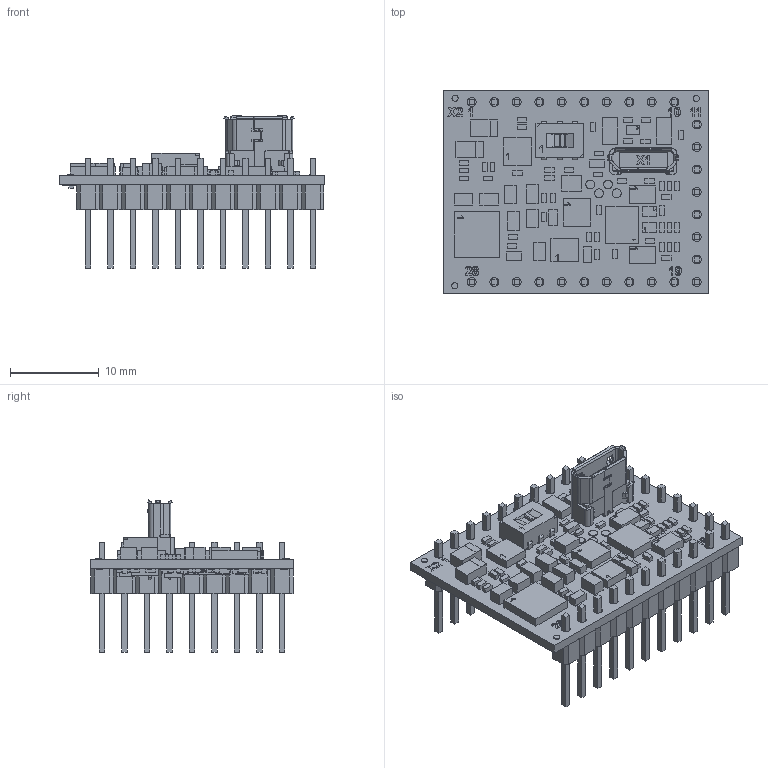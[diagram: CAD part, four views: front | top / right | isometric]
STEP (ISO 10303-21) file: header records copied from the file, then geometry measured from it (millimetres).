
FILE_DESCRIPTION(/* description */ (''),/* implementation_level */ '2;1');
FILE_NAME(/* name */ 'PLATINE MC3001_P_RS-CO.stp',/* time_stamp */ '2020-08-07T09:15:44+02:00',/* author */ ('DR. FRITZ FAULHABER GmbH & Co. KG'),/* organization */ ('DR. FRITZ FAULHABER GmbH & Co. KG'),/* preprocessor_version */ 'ST-DEVELOPER v16.7',/* originating_system */ 'SIEMENS PLM Software NX 12.0',/* authorisation */ '');
FILE_SCHEMA (('AUTOMOTIVE_DESIGN { 1 0 10303 214 3 1 1 1 }'));
Products named in the file (1): 012004_A_1-TP-00196
Bounding box: 30 x 23 x 17.16 mm (x, y, z)
Volume: 1625.1 mm3; surface area: 3658.6 mm2
Topology: 1 solids, 1 shells, 2431 faces, 6062 edges, 4016 vertices
Faces by surface type: plane 2081, cylinder 303, extrusion 33, torus 12, cone 2
Full cylindrical faces by diameter (mm): 0.4 x96, 0.6 x1, 0.7 x6, 1 x32
Entity records: 71868 total; most frequent: CARTESIAN_POINT 14109, ORIENTED_EDGE 11838, DIRECTION 11094, EDGE_CURVE 5919, VECTOR 5018, LINE 4985, VERTEX_POINT 4008, AXIS2_PLACEMENT_3D 3038
